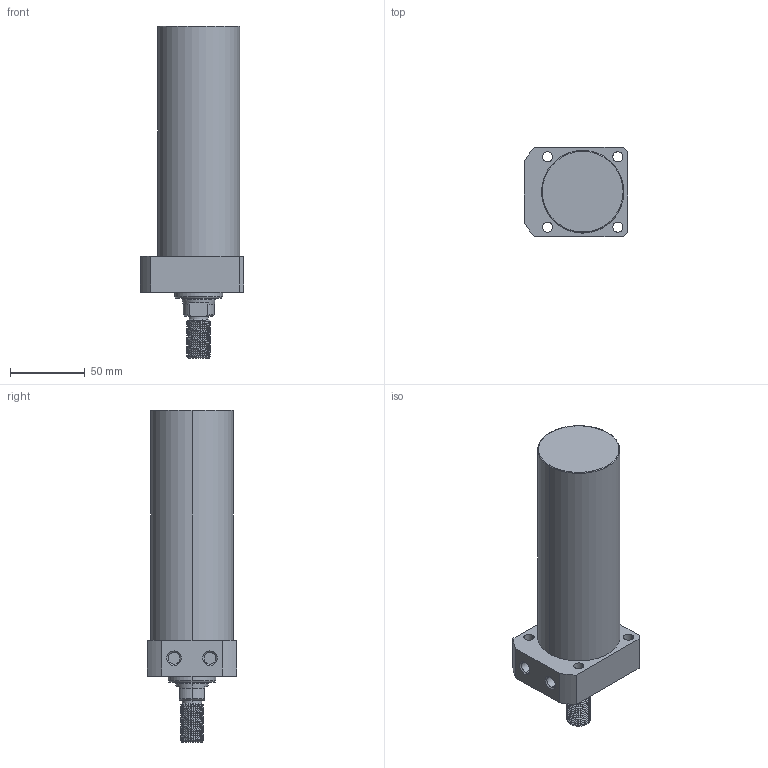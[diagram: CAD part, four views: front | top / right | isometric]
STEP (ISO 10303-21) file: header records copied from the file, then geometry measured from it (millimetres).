
FILE_DESCRIPTION (( 'STEP AP214' ), '1' );
FILE_NAME ('CLLR-055CT-125.STEP', '2020-01-10T00:56:39', ( 'Windows' ), ( 'Microsoft' ), 'SwSTEP 2.0', 'SolidWorks 2015', '' );
FILE_SCHEMA (( 'AUTOMOTIVE_DESIGN' ));
Length unit declared in the file: millimetre
Products named in the file (1): CLLR-055CT-125
Bounding box: 69 x 60 x 222 mm (x, y, z)
Volume: 470598.2 mm3; surface area: 46431.5 mm2
Topology: 1 solids, 1 shells, 101 faces, 259 edges, 168 vertices
Faces by surface type: cylinder 62, plane 20, cone 15, torus 2, bspline 2
Entity records: 5046 total; most frequent: CARTESIAN_POINT 2656, ORIENTED_EDGE 518, DIRECTION 458, EDGE_CURVE 259, AXIS2_PLACEMENT_3D 180, VERTEX_POINT 168, EDGE_LOOP 117, ADVANCED_FACE 101
